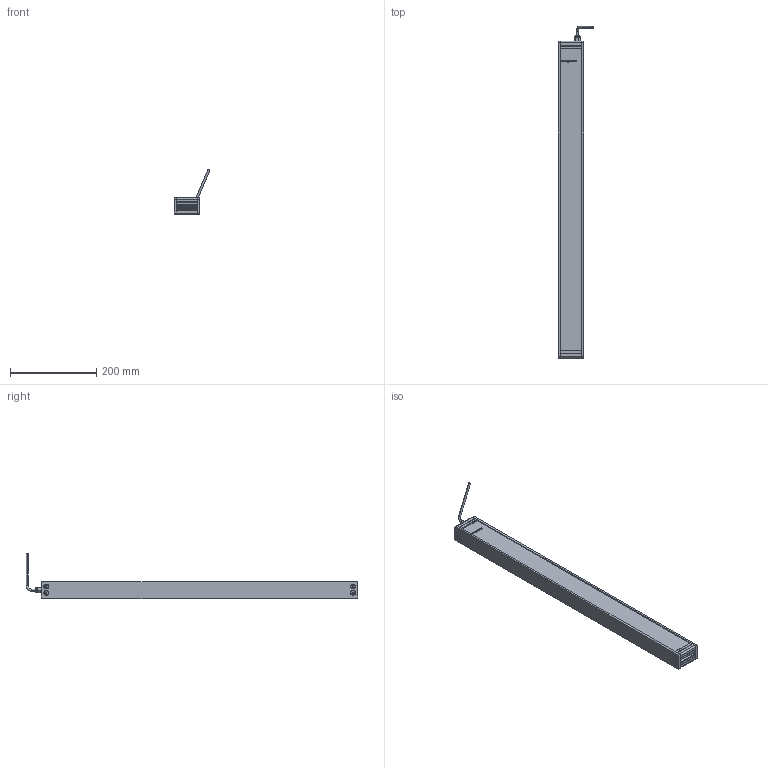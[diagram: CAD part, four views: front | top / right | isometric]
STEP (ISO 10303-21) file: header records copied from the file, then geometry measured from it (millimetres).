
FILE_DESCRIPTION (( 'STEP AP214' ), '1' );
FILE_NAME ('EFFI-BL-50T-700-1M12.STEP', '2021-06-28T08:07:04', ( '' ), ( '' ), 'SwSTEP 2.0', 'SolidWorks 2021', '' );
FILE_SCHEMA (( 'AUTOMOTIVE_DESIGN' ));
Length unit declared in the file: millimetre
Products named in the file (7): EFFI-BL-50T-700-1M12; Pièce2^EFFI-BL-XXXT-YYY + M12; profile modif_lg 99.5 mm; 003776; cordon_Avec cable; bord fin modif_lg 436.5 mm
Assembly tree (14 placements, depth 2):
  EFFI-BL-50T-700-1M12
    profile modif_lg 99.5 mm
    bord fin modif_lg 436.5 mm  x2
    Pièce2^EFFI-BL-XXXT-YYY + M12
    profile modif_lg 99.5 mm
    003776  x8
    cordon_Avec cable
Bounding box: 83.2 x 771.15 x 105.8 mm (x, y, z)
Volume: 1563386.8 mm3; surface area: 279162 mm2
Topology: 13 solids, 19 shells, 629 faces, 1602 edges, 1029 vertices
Faces by surface type: plane 325, bspline 180, cylinder 96, cone 18, torus 10
Entity records: 19192 total; most frequent: CARTESIAN_POINT 7634, ORIENTED_EDGE 2332, DIRECTION 1838, EDGE_CURVE 1170, LINE 794, VECTOR 794, VERTEX_POINT 772, AXIS2_PLACEMENT_3D 522
